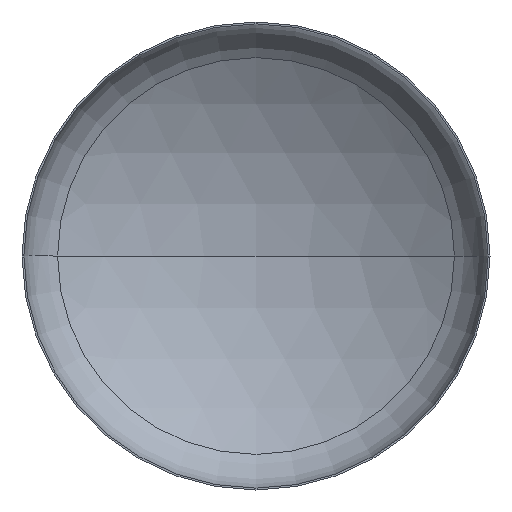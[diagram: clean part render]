
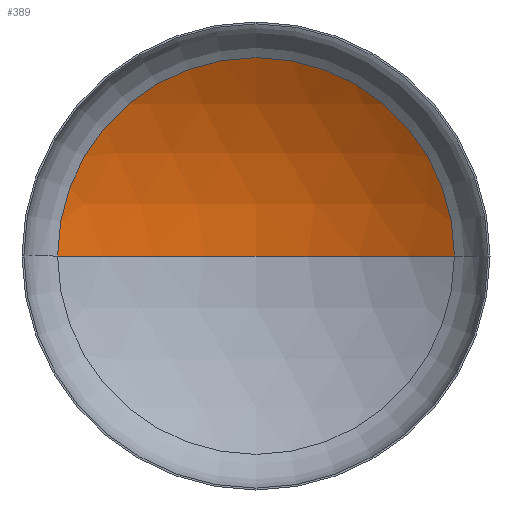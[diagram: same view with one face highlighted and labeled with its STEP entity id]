
A CAD part, front view. The second image highlights one B-rep face of the part: STEP entity #389.
In plain terms, the highlighted spherical face has radius 1200 mm.
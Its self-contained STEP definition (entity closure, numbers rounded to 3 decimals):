
#2 = VERTEX_POINT ( 'NONE', #208 ) ;
#60 = AXIS2_PLACEMENT_3D ( 'NONE', #207, #324, #406 ) ;
#101 = CARTESIAN_POINT ( 'NONE',  ( 0., -802.62, 0. ) ) ;
#104 = DIRECTION ( 'NONE',  ( 0., 0., 1. ) ) ;
#131 = CIRCLE ( 'NONE', #374, 1200. ) ;
#146 = DIRECTION ( 'NONE',  ( 0., 0., -1. ) ) ;
#191 = CARTESIAN_POINT ( 'NONE',  ( 0., 397.38, 0. ) ) ;
#207 = CARTESIAN_POINT ( 'NONE',  ( 0., -802.62, 0. ) ) ;
#208 = CARTESIAN_POINT ( 'NONE',  ( -635.876, 215.054, 0. ) ) ;
#209 = DIRECTION ( 'NONE',  ( 1., 0., 0. ) ) ;
#252 = VERTEX_POINT ( 'NONE', #191 ) ;
#257 = ORIENTED_EDGE ( 'NONE', *, *, #370, .T. ) ;
#258 = CARTESIAN_POINT ( 'NONE',  ( 0., 215.054, 0. ) ) ;
#269 = AXIS2_PLACEMENT_3D ( 'NONE', #101, #104, #282 ) ;
#279 = SPHERICAL_SURFACE ( 'NONE', #60, 1200. ) ;
#282 = DIRECTION ( 'NONE',  ( 1., 0., 0. ) ) ;
#291 = CIRCLE ( 'NONE', #353, 635.876 ) ;
#292 = CARTESIAN_POINT ( 'NONE',  ( 635.876, 215.054, 0. ) ) ;
#303 = CIRCLE ( 'NONE', #269, 1200. ) ;
#324 = DIRECTION ( 'NONE',  ( 0., 0., -1. ) ) ;
#328 = CARTESIAN_POINT ( 'NONE',  ( 0., -802.62, 0. ) ) ;
#332 = EDGE_CURVE ( 'NONE', #252, #2, #303, .T. ) ;
#340 = ORIENTED_EDGE ( 'NONE', *, *, #332, .F. ) ;
#353 = AXIS2_PLACEMENT_3D ( 'NONE', #258, #380, #209 ) ;
#356 = DIRECTION ( 'NONE',  ( -1., 0., 0. ) ) ;
#362 = EDGE_CURVE ( 'NONE', #252, #372, #131, .T. ) ;
#363 = FACE_OUTER_BOUND ( 'NONE', #403, .T. ) ;
#370 = EDGE_CURVE ( 'NONE', #372, #2, #291, .T. ) ;
#372 = VERTEX_POINT ( 'NONE', #292 ) ;
#374 = AXIS2_PLACEMENT_3D ( 'NONE', #328, #146, #356 ) ;
#380 = DIRECTION ( 'NONE',  ( 0., -1., 0. ) ) ;
#389 = ADVANCED_FACE ( 'NONE', ( #363 ), #279, .F. ) ;
#396 = ORIENTED_EDGE ( 'NONE', *, *, #362, .T. ) ;
#403 = EDGE_LOOP ( 'NONE', ( #340, #396, #257 ) ) ;
#406 = DIRECTION ( 'NONE',  ( -1., 0., 0. ) ) ;
